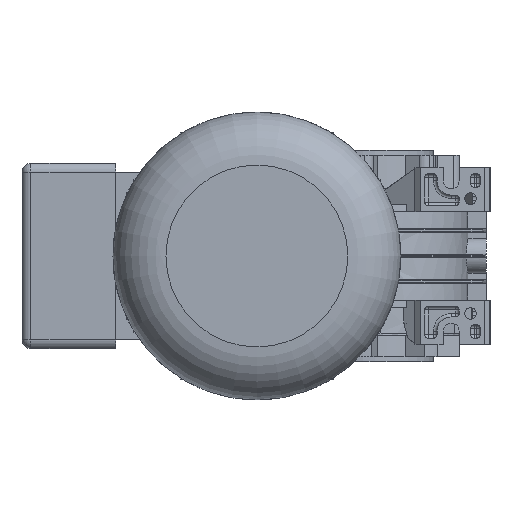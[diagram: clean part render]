
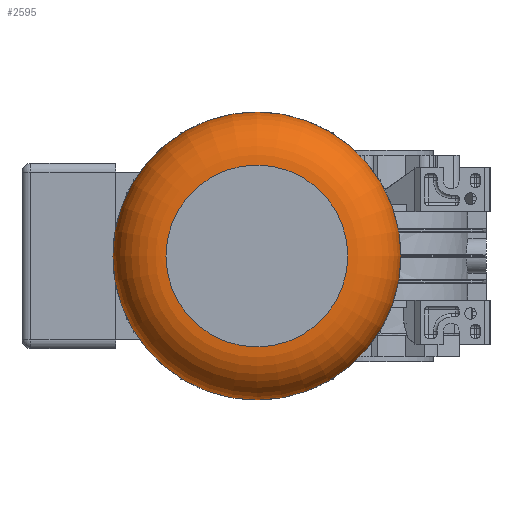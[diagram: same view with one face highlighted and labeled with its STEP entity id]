
A CAD part, left-side view. The second image highlights one B-rep face of the part: STEP entity #2595.
In plain terms, the highlighted toroidal (fillet/blend) face has major radius 51.5 mm and minor radius 30 mm.
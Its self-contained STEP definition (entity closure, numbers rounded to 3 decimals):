
#2595 = ADVANCED_FACE( '', ( #6508, #6509 ), #6510, .T. );
#6508 = FACE_OUTER_BOUND( '', #12073, .T. );
#6509 = FACE_OUTER_BOUND( '', #12074, .T. );
#6510 = TOROIDAL_SURFACE( '', #12075, 51.5, 30. );
#12073 = EDGE_LOOP( '', ( #20254 ) );
#12074 = EDGE_LOOP( '', ( #20255 ) );
#12075 = AXIS2_PLACEMENT_3D( '', #20256, #20257, #20258 );
#20254 = ORIENTED_EDGE( '', *, *, #33616, .F. );
#20255 = ORIENTED_EDGE( '', *, *, #33679, .F. );
#20256 = CARTESIAN_POINT( '', ( -313., 60., 0. ) );
#20257 = DIRECTION( '', ( -1., 0., 0. ) );
#20258 = DIRECTION( '', ( 0., 1., 0. ) );
#33616 = EDGE_CURVE( '', #40936, #40936, #40937, .T. );
#33679 = EDGE_CURVE( '', #41036, #41036, #41037, .F. );
#40936 = VERTEX_POINT( '', #50975 );
#40937 = CIRCLE( '', #50976, 51.5 );
#41036 = VERTEX_POINT( '', #51104 );
#41037 = CIRCLE( '', #51105, 81.5 );
#50975 = CARTESIAN_POINT( '', ( -343., 111.5, 0. ) );
#50976 = AXIS2_PLACEMENT_3D( '', #60653, #60654, #60655 );
#51104 = CARTESIAN_POINT( '', ( -313., 141.5, 0. ) );
#51105 = AXIS2_PLACEMENT_3D( '', #60739, #60740, #60741 );
#60653 = CARTESIAN_POINT( '', ( -343., 60., 0. ) );
#60654 = DIRECTION( '', ( -1., 0., 0. ) );
#60655 = DIRECTION( '', ( 0., 1., 0. ) );
#60739 = CARTESIAN_POINT( '', ( -313., 60., 0. ) );
#60740 = DIRECTION( '', ( -1., 0., 0. ) );
#60741 = DIRECTION( '', ( 0., 1., 0. ) );
